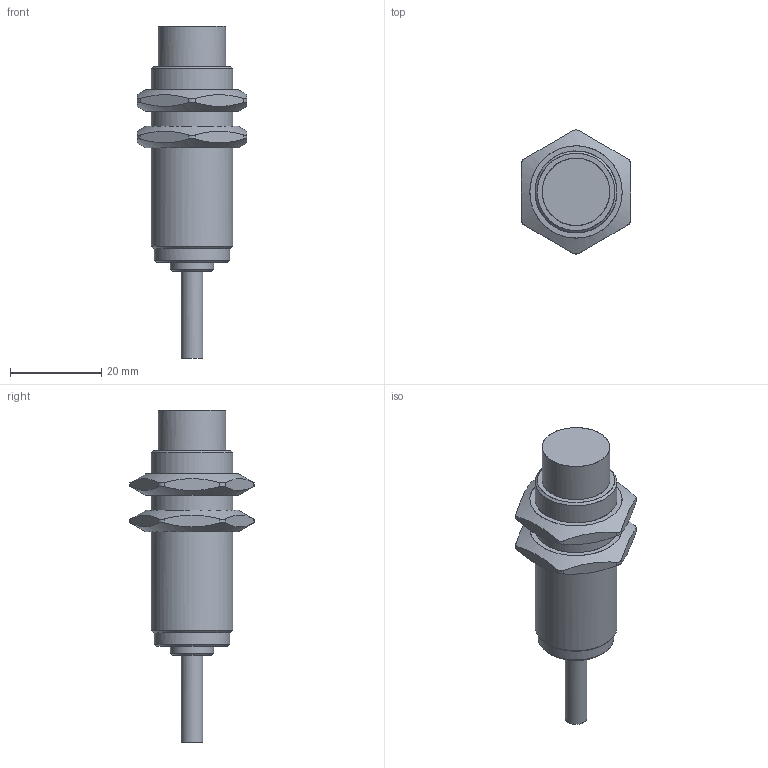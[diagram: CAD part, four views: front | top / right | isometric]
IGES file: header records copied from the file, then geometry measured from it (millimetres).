
Global section: file name: H:\lem\3DCAD_IS C18MM_xxx_xNx.igs; native system: NX V11.0; preprocessor: SIEMENS PLM Software NX 11.0; date: 20210917.134112; units: millimetre
Bounding box: 23.97 x 27.25 x 72.9 mm (x, y, z)
Surface area: 5562 mm2 (no closed solid volume)
Topology: 0 solids, 0 shells, 49 faces, 460 edges, 440 vertices
Faces by surface type: bspline 49
